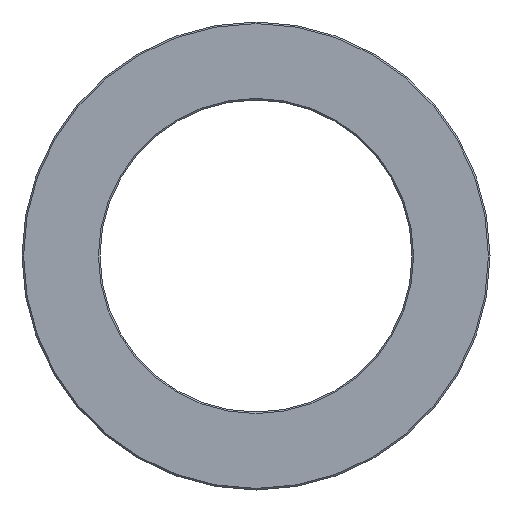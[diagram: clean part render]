
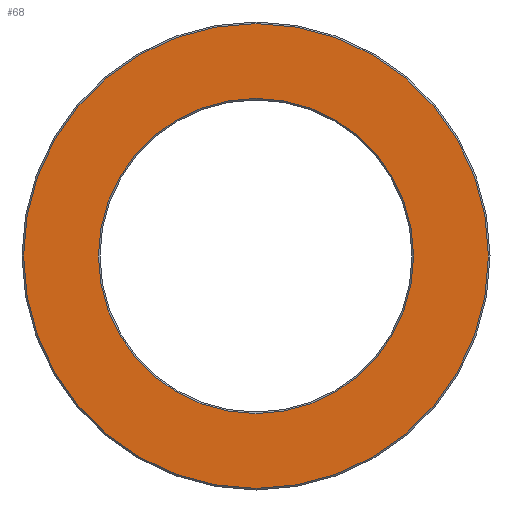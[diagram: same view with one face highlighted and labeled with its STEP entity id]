
A CAD part, left-side view. The second image highlights one B-rep face of the part: STEP entity #68.
In plain terms, the highlighted planar face has unit normal (-1, 0, 0).
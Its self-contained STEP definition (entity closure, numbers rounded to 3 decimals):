
#24 = CARTESIAN_POINT ( 'NONE',  ( -246., -29.8, 0. ) ) ;
#32 = CARTESIAN_POINT ( 'NONE',  ( -246., 29.8, 0. ) ) ;
#35 = CARTESIAN_POINT ( 'NONE',  ( -246., 20.2, 0. ) ) ;
#47 = EDGE_CURVE ( 'NONE', #397, #398, #127, .T. ) ;
#51 = EDGE_CURVE ( 'NONE', #477, #699, #182, .T. ) ;
#68 = ADVANCED_FACE ( 'NONE', ( #445, #450 ), #443, .T. ) ;
#86 = EDGE_CURVE ( 'NONE', #699, #477, #233, .T. ) ;
#88 = EDGE_CURVE ( 'NONE', #398, #397, #236, .T. ) ;
#127 = CIRCLE ( 'NONE', #177, 20.2 ) ;
#177 = AXIS2_PLACEMENT_3D ( 'NONE', #536, #535, #534 ) ;
#181 = AXIS2_PLACEMENT_3D ( 'NONE', #522, #523, #524 ) ;
#182 = CIRCLE ( 'NONE', #181, 29.8 ) ;
#214 = AXIS2_PLACEMENT_3D ( 'NONE', #446, #448, #441 ) ;
#233 = CIRCLE ( 'NONE', #235, 29.8 ) ;
#235 = AXIS2_PLACEMENT_3D ( 'NONE', #373, #372, #370 ) ;
#236 = CIRCLE ( 'NONE', #239, 20.2 ) ;
#239 = AXIS2_PLACEMENT_3D ( 'NONE', #363, #362, #361 ) ;
#318 = ORIENTED_EDGE ( 'NONE', *, *, #88, .T. ) ;
#361 = DIRECTION ( 'NONE',  ( 0., -1., 0. ) ) ;
#362 = DIRECTION ( 'NONE',  ( 1., 0., 0. ) ) ;
#363 = CARTESIAN_POINT ( 'NONE',  ( -246., 0., 0. ) ) ;
#370 = DIRECTION ( 'NONE',  ( 0., -1., 0. ) ) ;
#371 = ORIENTED_EDGE ( 'NONE', *, *, #47, .T. ) ;
#372 = DIRECTION ( 'NONE',  ( -1., 0., 0. ) ) ;
#373 = CARTESIAN_POINT ( 'NONE',  ( -246., 0., 0. ) ) ;
#397 = VERTEX_POINT ( 'NONE', #35 ) ;
#398 = VERTEX_POINT ( 'NONE', #573 ) ;
#405 = ORIENTED_EDGE ( 'NONE', *, *, #86, .T. ) ;
#441 = DIRECTION ( 'NONE',  ( 0., -1., 0. ) ) ;
#443 = PLANE ( 'NONE',  #214 ) ;
#445 = FACE_BOUND ( 'NONE', #671, .T. ) ;
#446 = CARTESIAN_POINT ( 'NONE',  ( -246., 20., 0. ) ) ;
#448 = DIRECTION ( 'NONE',  ( -1., 0., 0. ) ) ;
#450 = FACE_OUTER_BOUND ( 'NONE', #656, .T. ) ;
#476 = ORIENTED_EDGE ( 'NONE', *, *, #51, .T. ) ;
#477 = VERTEX_POINT ( 'NONE', #32 ) ;
#522 = CARTESIAN_POINT ( 'NONE',  ( -246., 0., 0. ) ) ;
#523 = DIRECTION ( 'NONE',  ( -1., 0., 0. ) ) ;
#524 = DIRECTION ( 'NONE',  ( 0., -1., 0. ) ) ;
#534 = DIRECTION ( 'NONE',  ( 0., -1., 0. ) ) ;
#535 = DIRECTION ( 'NONE',  ( 1., 0., 0. ) ) ;
#536 = CARTESIAN_POINT ( 'NONE',  ( -246., 0., 0. ) ) ;
#573 = CARTESIAN_POINT ( 'NONE',  ( -246., -20.2, 0. ) ) ;
#656 = EDGE_LOOP ( 'NONE', ( #476, #405 ) ) ;
#671 = EDGE_LOOP ( 'NONE', ( #318, #371 ) ) ;
#699 = VERTEX_POINT ( 'NONE', #24 ) ;
